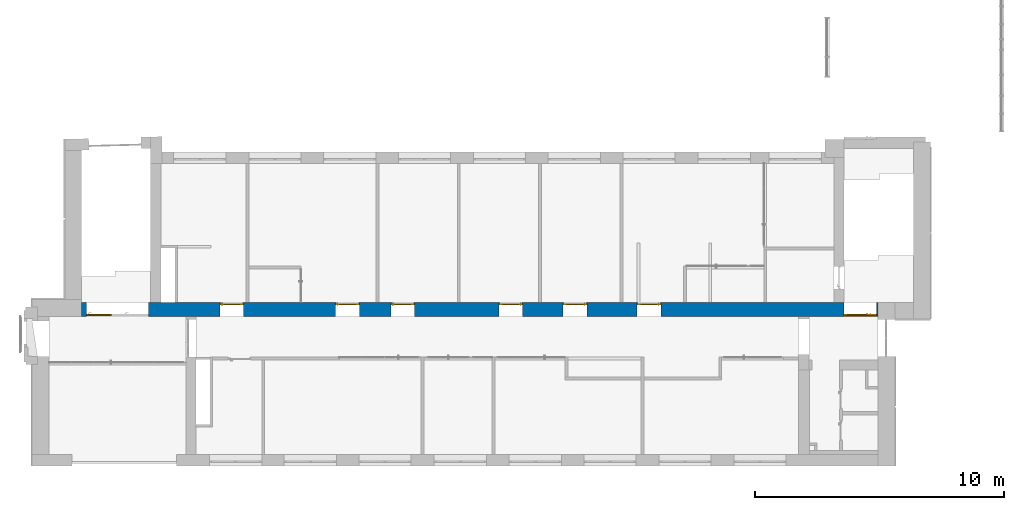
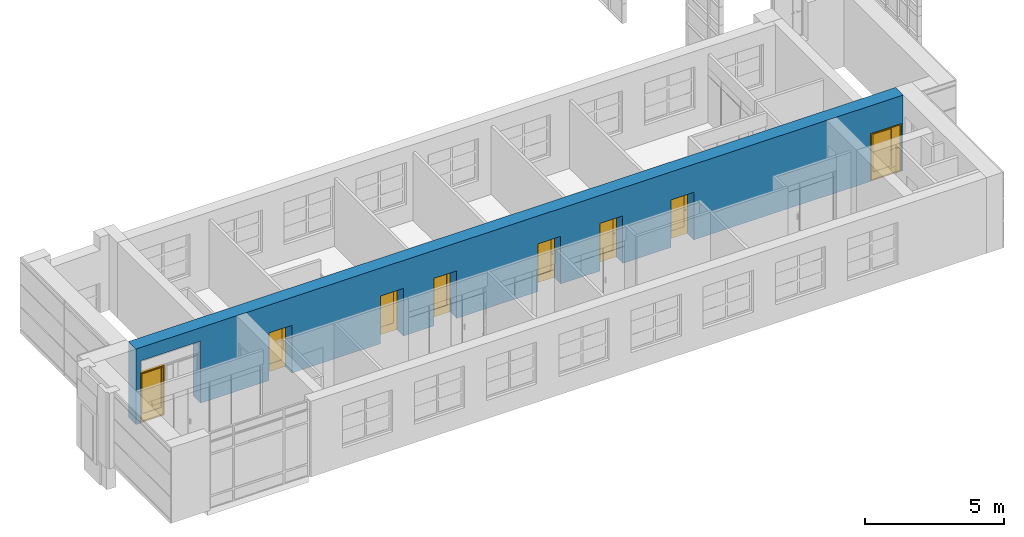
# One storey, part 56 of 73: 8 doors, 1 wall, 10 openings.
"""IFC2X3 building model written with IfcOpenShell, lengths in millimetres."""

from ifc_helpers import new_model, entity, si_unit, converted_unit, derived_unit, direction, frame, frame_2d, origin, place, context, subcontext, project, spatial, rectangle, extrude, faceted_brep, source, transform, mapped, material, material_list, layer, layer_set, layer_usage, type_object, type_shapes, element, fill, save


model = new_model("IFC2X3")

# Units and contexts
model_context = context("Model", 3, precision=0.01, world=origin(), true_north=direction((6.12303176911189e-17, 1.0)))
body_context = subcontext(model_context, "Body", "Model", "MODEL_VIEW")
ifc_project = project(units=[si_unit("LENGTHUNIT", "METRE", prefix="MILLI"), si_unit("AREAUNIT", "SQUARE_METRE"), si_unit("VOLUMEUNIT", "CUBIC_METRE"), converted_unit("PLANEANGLEUNIT", "DEGREE", entity("IfcRatioMeasure", 0.0174532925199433), si_unit("PLANEANGLEUNIT", "RADIAN"), dimensions=[0, 0, 0, 0, 0, 0, 0]), si_unit("MASSUNIT", "GRAM", prefix="KILO"), derived_unit("MASSDENSITYUNIT", [(si_unit("MASSUNIT", "GRAM", prefix="KILO"), 1), (si_unit("LENGTHUNIT", "METRE"), -3)]), si_unit("TIMEUNIT", "SECOND"), si_unit("FREQUENCYUNIT", "HERTZ"), si_unit("THERMODYNAMICTEMPERATUREUNIT", "DEGREE_CELSIUS"), derived_unit("THERMALTRANSMITTANCEUNIT", [(si_unit("MASSUNIT", "GRAM", prefix="KILO"), 1), (si_unit("THERMODYNAMICTEMPERATUREUNIT", "KELVIN"), -1), (si_unit("TIMEUNIT", "SECOND"), -3)]), derived_unit("VOLUMETRICFLOWRATEUNIT", [(si_unit("LENGTHUNIT", "METRE"), 3), (si_unit("TIMEUNIT", "SECOND"), -1)]), si_unit("ELECTRICCURRENTUNIT", "AMPERE"), si_unit("ELECTRICVOLTAGEUNIT", "VOLT"), si_unit("POWERUNIT", "WATT"), si_unit("FORCEUNIT", "NEWTON", prefix="KILO"), si_unit("ILLUMINANCEUNIT", "LUX"), si_unit("LUMINOUSFLUXUNIT", "LUMEN"), si_unit("LUMINOUSINTENSITYUNIT", "CANDELA"), derived_unit("USERDEFINED", [(si_unit("MASSUNIT", "GRAM", prefix="KILO"), -1), (si_unit("LENGTHUNIT", "METRE"), -2), (si_unit("TIMEUNIT", "SECOND"), 3), (si_unit("LUMINOUSFLUXUNIT", "LUMEN"), 1)]), derived_unit("LINEARVELOCITYUNIT", [(si_unit("LENGTHUNIT", "METRE"), 1), (si_unit("TIMEUNIT", "SECOND"), -1)]), si_unit("PRESSUREUNIT", "PASCAL"), derived_unit("USERDEFINED", [(si_unit("LENGTHUNIT", "METRE"), -2), (si_unit("MASSUNIT", "GRAM", prefix="KILO"), 1), (si_unit("TIMEUNIT", "SECOND"), -2)])], contexts=[model_context])

# Site, building, storey
site_placement = place(None, frame((-151.875543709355, 2715.0, 0.0)))
site = spatial("IfcSite", under=ifc_project, at=site_placement, Name="Surface", CompositionType="ELEMENT")
building_placement = place(site_placement, origin())
building = spatial("IfcBuilding", under=site, at=building_placement, CompositionType="ELEMENT")
storey_placement = place(building_placement, frame((0.0, 0.0, 6730.43000000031)))
storey = spatial("IfcBuildingStorey", under=building, at=storey_placement, Name="3 korrus", CompositionType="ELEMENT", Elevation=6730.43000000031)

# Wall, openings, doors
ifc_material_1 = material(Name="__Kips GN13_tava")
ifc_layer_1 = layer(ifc_material_1, 20.0)
ifc_material_2 = material(Name="Masonry - Brick")
ifc_layer_2 = layer(ifc_material_2, 510.0)
ifc_layer_3 = layer(ifc_material_1, 20.0)
ifc_layer_set = layer_set([ifc_layer_1, ifc_layer_2, ifc_layer_3], Name="Basic Wall:SS-1")
ifc_layer_usage = layer_usage(ifc_layer_set, "AXIS2", "POSITIVE", -275.0)
wall_type = type_object("IfcWallType", Name="Basic Wall:SS-1", PredefinedType="STANDARD", material=ifc_layer_set)
wall_placement = place(storey_placement, frame((1770.0, 6285.0, 0.00203353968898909)))
wall = element("IfcWallStandardCase", 1, at=wall_placement, inside=storey, type_object=wall_type, material=ifc_layer_usage, Name="SEIN - 002", ObjectType="Basic Wall:SS-1", context=body_context, shape_type="SweptSolid", body=[
    extrude(rectangle(XDim=31971.6162682, YDim=550.000000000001, at=frame_2d((15985.8081341, 0.0), x_axis=(-1.0, 0.0))), origin(), (0.0, 0.0, 1.0), 3329.56796646),
])
opening_1_placement = place(wall_placement, frame((30601.61626818, -275.0, 0.0)))
opening_1 = element("IfcOpeningElement", 2, at=opening_1_placement, cuts=wall, Name="Kahepoolsed:SU-11:1", ObjectType="Opening", context=body_context, shape_type="SweptSolid", body=[
    extrude(rectangle(XDim=2099.99999999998, YDim=1300.0, at=frame_2d((1049.99999999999, 650.0), x_axis=(1.0, 0.0))), frame((0.0, 0.0, 0.0), z_axis=(0.0, 1.0, 0.0), x_axis=(0.0, 0.0, 1.0)), (0.0, 0.0, 1.0), 550.0),
])
opening_2_placement = place(wall_placement, frame((17700.2662258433, 275.0, -0.00203353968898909)))
opening_2 = element("IfcOpeningElement", 3, at=opening_2_placement, cuts=wall, Name="Ühepoolsed:SU-03.:1", ObjectType="Opening", context=body_context, shape_type="SweptSolid", body=[
    extrude(rectangle(XDim=2099.99999999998, YDim=950.0, at=frame_2d((1049.99999999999, 475.0), x_axis=(1.0, 0.0))), frame((0.0, 0.0, 0.0), z_axis=(0.0, -1.0, 0.0), x_axis=(0.0, 0.0, 1.0)), (0.0, 0.0, 1.0), 550.0),
])
opening_3_placement = place(wall_placement, frame((13361.3323530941, 275.0, -0.00203353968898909)))
opening_3 = element("IfcOpeningElement", 4, at=opening_3_placement, cuts=wall, Name="Ühepoolsed:SU-03:1", ObjectType="Opening", context=body_context, shape_type="SweptSolid", body=[
    extrude(rectangle(XDim=2099.99999999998, YDim=949.999999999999, at=frame_2d((1049.99999999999, 475.000000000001), x_axis=(1.0, 0.0))), frame((0.0, 0.0, 0.0), z_axis=(0.0, -1.0, 0.0), x_axis=(0.0, 0.0, 1.0)), (0.0, 0.0, 1.0), 550.0),
])
opening_4_placement = place(wall_placement, frame((6492.84934805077, 275.0, -0.00203353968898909)))
opening_4 = element("IfcOpeningElement", 5, at=opening_4_placement, cuts=wall, Name="Ühepoolsed:SU-03:1", ObjectType="Opening", context=body_context, shape_type="SweptSolid", body=[
    extrude(rectangle(XDim=2099.99999999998, YDim=950.0, at=frame_2d((1049.99999999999, 475.0), x_axis=(1.0, 0.0))), frame((0.0, 0.0, 0.0), z_axis=(0.0, -1.0, 0.0), x_axis=(0.0, 0.0, 1.0)), (0.0, 0.0, 1.0), 550.0),
])
opening_5_placement = place(wall_placement, frame((20281.37701032, 275.0, -0.00203353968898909)))
opening_5 = element("IfcOpeningElement", 6, at=opening_5_placement, cuts=wall, Name="Ühepoolsed:SU-03.:1", ObjectType="Opening", context=body_context, shape_type="SweptSolid", body=[
    extrude(rectangle(XDim=2099.99999999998, YDim=950.0, at=frame_2d((1049.99999999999, 475.0), x_axis=(1.0, 0.0))), frame((0.0, 0.0, 0.0), z_axis=(0.0, -1.0, 0.0), x_axis=(0.0, 0.0, 1.0)), (0.0, 0.0, 1.0), 550.0),
])
opening_6_placement = place(wall_placement, frame((23246.99163952, 275.0, -0.00203353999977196)))
opening_6 = element("IfcOpeningElement", 7, at=opening_6_placement, cuts=wall, Name="Ühepoolsed:SU-03.:1", ObjectType="Opening", context=body_context, shape_type="SweptSolid", body=[
    extrude(rectangle(XDim=2099.99999999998, YDim=950.0, at=frame_2d((1049.99999999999, 475.0), x_axis=(1.0, 0.0))), frame((0.0, 0.0, 0.0), z_axis=(0.0, -1.0, 0.0), x_axis=(0.0, 0.0, 1.0)), (0.0, 0.0, 1.0), 550.0),
])
opening_7_placement = place(wall_placement, frame((11142.81982462, 275.0, -0.00203353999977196)))
opening_7 = element("IfcOpeningElement", 8, at=opening_7_placement, cuts=wall, Name="Ühepoolsed:SU-03:1", ObjectType="Opening", context=body_context, shape_type="SweptSolid", body=[
    extrude(rectangle(XDim=2099.99999999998, YDim=949.999999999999, at=frame_2d((1049.99999999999, 475.000000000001), x_axis=(1.0, 0.0))), frame((0.0, 0.0, 0.0), z_axis=(0.0, -1.0, 0.0), x_axis=(0.0, 0.0, 1.0)), (0.0, 0.0, 1.0), 550.0),
])
opening_8_placement = place(wall_placement, frame((188.767567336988, -275.0, 2199.99796645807)))
element("IfcOpeningElement", 9, at=opening_8_placement, cuts=wall, Name="Ühepoolsed:SU17_ülemine:1", ObjectType="Opening", context=body_context, shape_type="SweptSolid", body=[
    extrude(rectangle(XDim=539.999999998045, YDim=2500.0, at=frame_2d((269.999999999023, 1250.0), x_axis=(1.0, 0.0))), frame((0.0, 0.0, 0.0), z_axis=(0.0, 1.0, 0.0), x_axis=(0.0, 0.0, 1.0)), (0.0, 0.0, 1.0), 550.0),
])
opening_9_placement = place(wall_placement, frame((1188.76756733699, -275.0, -0.00203353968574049)))
element("IfcOpeningElement", 10, at=opening_9_placement, cuts=wall, Name="Kahepoolsed:SU-17:1", ObjectType="Opening", context=body_context, shape_type="SweptSolid", body=[
    extrude(rectangle(XDim=2199.99999999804, YDim=1500.0, at=frame_2d((1099.99999999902, 750.0), x_axis=(1.0, 0.0))), frame((0.0, 0.0, 0.0), z_axis=(0.0, 1.0, 0.0), x_axis=(0.0, 0.0, 1.0)), (0.0, 0.0, 1.0), 550.0),
])
opening_10_placement = place(wall_placement, frame((188.767567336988, -275.0, -0.00203353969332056)))
opening_10 = element("IfcOpeningElement", 11, at=opening_10_placement, cuts=wall, Name="Aken ukse kohal:SU-1500_aken:1", ObjectType="Opening", context=body_context, shape_type="SweptSolid", body=[
    extrude(rectangle(XDim=2199.99999999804, YDim=1000.0, at=frame_2d((1099.99999999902, 500.0), x_axis=(1.0, 0.0))), frame((0.0, 0.0, 0.0), z_axis=(0.0, 1.0, 0.0), x_axis=(0.0, 0.0, 1.0)), (0.0, 0.0, 1.0), 550.0),
])
ifc_material_3 = material(Name="_Alumiiniumprofiil - must")
ifc_material_4 = material(Name="__Uks_hele tamm")
ifc_material_5 = material(Name="EP Tavallinen lasi")
ifc_material_list_1 = material_list([ifc_material_3, ifc_material_4, ifc_material_5])
ifc_material_list_2 = material_list([ifc_material_3, ifc_material_4, ifc_material_5])
door_style_1 = type_object("IfcDoorStyle", Name="SU-11", ConstructionType="NOTDEFINED", OperationType="FOLDING_TO_RIGHT", ParameterTakesPrecedence=False, Sizeable=False, material=ifc_material_list_2)
shared_shape_1 = source(origin(), body_context, "Body", "Brep", [
    faceted_brep([(912.5, 0.0, 1100.0), (817.5, 0.0, 1100.0), (817.5, -5.0, 1100.0), (937.5, -5.0, 1100.0), (937.5, 38.0, 1100.0), (912.5, 38.0, 1100.0), (912.5, 0.0, 1075.0), (912.5, 38.0, 1075.0), (937.5, 38.0, 1075.0), (937.5, -5.0, 1075.0), (817.5, -5.0, 1075.0), (817.5, 0.0, 1075.0)], [[[0, 1, 2, 3, 4, 5]], [[6, 7, 8, 9, 10, 11]], [[5, 7, 6, 0]], [[4, 8, 7, 5]], [[3, 9, 8, 4]], [[2, 10, 9, 3]], [[1, 11, 10, 2]], [[0, 6, 11, 1]]]),
    faceted_brep([(900.0, 38.0, 1125.0), (950.0, 38.0, 1125.0), (950.0, 40.0, 1125.0), (900.0, 40.0, 1125.0), (900.0, 38.0, 1005.0), (900.0, 40.0, 1005.0), (950.0, 40.0, 1005.0), (950.0, 38.0, 1005.0)], [[[0, 1, 2, 3]], [[4, 5, 6, 7]], [[3, 5, 4, 0]], [[2, 6, 5, 3]], [[1, 7, 6, 2]], [[0, 4, 7, 1]]]),
    faceted_brep([(912.499999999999, 130.0, 1100.0), (912.499999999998, 92.0, 1100.0), (937.499999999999, 92.0, 1100.0), (937.499999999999, 135.0, 1100.0), (817.499999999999, 135.0, 1100.0), (817.499999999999, 130.0, 1100.0), (912.499999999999, 130.0, 1075.0), (817.499999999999, 130.0, 1075.0), (817.499999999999, 135.0, 1075.0), (937.499999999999, 135.0, 1075.0), (937.499999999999, 92.0, 1075.0), (912.499999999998, 92.0, 1075.0)], [[[0, 1, 2, 3, 4, 5]], [[6, 7, 8, 9, 10, 11]], [[1, 0, 6, 11]], [[2, 1, 11, 10]], [[3, 2, 10, 9]], [[4, 3, 9, 8]], [[5, 4, 8, 7]], [[0, 5, 7, 6]]]),
    faceted_brep([(900.0, 92.0, 1125.0), (900.0, 90.0, 1125.0), (950.0, 90.0, 1125.0), (950.0, 92.0, 1125.0), (900.0, 92.0, 1005.0), (950.0, 92.0, 1005.0), (950.0, 90.0, 1005.0), (900.0, 90.0, 1005.0)], [[[0, 1, 2, 3]], [[4, 5, 6, 7]], [[1, 0, 4, 7]], [[2, 1, 7, 6]], [[3, 2, 6, 5]], [[0, 3, 5, 4]]]),
    faceted_brep([(1087.5, 0.0, 1100.0), (1087.5, 38.0, 1100.0), (1062.5, 38.0, 1100.0), (1062.5, -5.0, 1100.0), (1182.5, -5.0, 1100.0), (1182.5, 0.0, 1100.0), (1087.5, 0.0, 1075.0), (1182.5, 0.0, 1075.0), (1182.5, -5.0, 1075.0), (1062.5, -5.0, 1075.0), (1062.5, 38.0, 1075.0), (1087.5, 38.0, 1075.0)], [[[0, 1, 2, 3, 4, 5]], [[6, 7, 8, 9, 10, 11]], [[1, 0, 6, 11]], [[2, 1, 11, 10]], [[3, 2, 10, 9]], [[4, 3, 9, 8]], [[5, 4, 8, 7]], [[0, 5, 7, 6]]]),
    faceted_brep([(1100.0, 38.0, 1125.0), (1100.0, 40.0, 1125.0), (1050.0, 40.0, 1125.0), (1050.0, 38.0, 1125.0), (1100.0, 38.0, 1005.0), (1050.0, 38.0, 1005.0), (1050.0, 40.0, 1005.0), (1100.0, 40.0, 1005.0)], [[[0, 1, 2, 3]], [[4, 5, 6, 7]], [[1, 0, 4, 7]], [[2, 1, 7, 6]], [[3, 2, 6, 5]], [[0, 3, 5, 4]]]),
    faceted_brep([(1087.5, 130.0, 1100.0), (1182.5, 130.0, 1100.0), (1182.5, 135.0, 1100.0), (1062.5, 135.0, 1100.0), (1062.5, 92.0, 1100.0), (1087.5, 92.0, 1100.0), (1087.5, 130.0, 1075.0), (1087.5, 92.0, 1075.0), (1062.5, 92.0, 1075.0), (1062.5, 135.0, 1075.0), (1182.5, 135.0, 1075.0), (1182.5, 130.0, 1075.0)], [[[0, 1, 2, 3, 4, 5]], [[6, 7, 8, 9, 10, 11]], [[5, 7, 6, 0]], [[4, 8, 7, 5]], [[3, 9, 8, 4]], [[2, 10, 9, 3]], [[1, 11, 10, 2]], [[0, 6, 11, 1]]]),
    faceted_brep([(1100.0, 92.0, 1125.0), (1050.0, 92.0, 1125.0), (1050.0, 90.0, 1125.0), (1100.0, 90.0, 1125.0), (1100.0, 92.0, 1005.0), (1100.0, 90.0, 1005.0), (1050.0, 90.0, 1005.0), (1050.0, 92.0, 1005.0)], [[[0, 1, 2, 3]], [[4, 5, 6, 7]], [[3, 5, 4, 0]], [[2, 6, 5, 3]], [[1, 7, 6, 2]], [[0, 4, 7, 1]]]),
    faceted_brep([(1260.0, 0.0, 30.0), (1260.0, 0.0, 0.0), (1260.0, 40.0, 0.0), (1260.0, 40.0, 20.0), (1260.0, 40.0, 30.0), (40.0, 0.0, 30.0), (40.0, 40.0, 30.0), (40.0, 40.0, 20.0), (40.0, 40.0, 0.0), (40.0, 0.0, 0.0), (25.0, 40.0, 0.0), (25.0, 90.0, 0.0), (1275.0, 90.0, 0.0), (1275.0, 40.0, 0.0), (1275.0, 90.0, 20.0), (1275.0, 40.0, 20.0), (25.0, 90.0, 20.0), (25.0, 40.0, 20.0)], [[[0, 1, 2, 3, 4]], [[5, 6, 7, 8, 9]], [[1, 0, 5, 9]], [[2, 1, 9, 8, 10, 11, 12, 13]], [[6, 4, 3, 7]], [[0, 4, 6, 5]], [[14, 15, 13, 12]], [[16, 11, 10, 17]], [[15, 14, 16, 17, 7, 3]], [[13, 15, 3, 2]], [[14, 12, 11, 16]], [[17, 10, 8, 7]]]),
    faceted_brep([(1300.0, 0.0, 0.0), (1260.0, 0.0, 0.0), (1260.0, 40.0, 0.0), (1275.0, 40.0, 0.0), (1275.0, 90.0, 0.0), (1300.0, 90.0, 0.0), (1300.0, 0.0, 2100.0), (0.0, 0.0, 2100.0), (0.0, 0.0, 0.0), (40.0, 0.0, 0.0), (40.0, 0.0, 2060.0), (1260.0, 0.0, 2060.0), (1260.0, 40.0, 2060.0), (40.0, 40.0, 2060.0), (40.0, 40.0, 0.0), (25.0, 40.0, 0.0), (25.0, 40.0, 2075.0), (1275.0, 40.0, 2075.0), (1275.0, 90.0, 2075.0), (25.0, 90.0, 2075.0), (25.0, 90.0, 0.0), (0.0, 90.0, 0.0), (0.0, 90.0, 2100.0), (1300.0, 90.0, 2100.0)], [[[0, 1, 2, 3, 4, 5]], [[1, 0, 6, 7, 8, 9, 10, 11]], [[2, 1, 11, 12]], [[3, 2, 12, 13, 14, 15, 16, 17]], [[4, 3, 17, 18]], [[5, 4, 18, 19, 20, 21, 22, 23]], [[0, 5, 23, 6]], [[8, 7, 22, 21]], [[9, 8, 21, 20, 15, 14]], [[10, 9, 14, 13]], [[16, 15, 20, 19]], [[11, 10, 13, 12]], [[17, 16, 19, 18]], [[7, 6, 23, 22]]]),
    faceted_brep([(1149.0, 90.0, 2000.0), (1149.0, 40.0, 2000.0), (1149.0, 40.0, 1990.0), (1149.0, 90.0, 1990.0), (1150.0, 40.0, 1990.0), (1150.0, 90.0, 1990.0), (1150.0, 40.0, 2000.0), (1150.0, 90.0, 2000.0), (1275.0, 40.0, 2075.0), (1000.0, 40.0, 2075.0), (1000.0, 40.0, 20.0), (1275.0, 40.0, 20.0), (1275.0, 90.0, 2075.0), (1275.0, 90.0, 20.0), (1000.0, 90.0, 20.0), (1000.0, 90.0, 2075.0)], [[[0, 1, 2, 3]], [[3, 2, 4, 5]], [[5, 4, 6, 7]], [[1, 0, 7, 6]], [[2, 1, 6, 4], [8, 9, 10, 11]], [[0, 3, 5, 7], [12, 13, 14, 15]], [[9, 8, 12, 15]], [[10, 9, 15, 14]], [[11, 10, 14, 13]], [[8, 11, 13, 12]]], outer=[[True], [True], [True], [True], [False, True], [False, True], [True], [True], [True], [True]]),
    faceted_brep([(125.0, 55.0, 350.0), (900.0, 55.0, 350.0), (900.0, 55.0, 2000.0), (125.0, 55.0, 2000.0), (125.0, 75.0, 350.0), (125.0, 75.0, 2000.0), (900.0, 75.0, 2000.0), (900.0, 75.0, 350.0)], [[[0, 1, 2, 3]], [[4, 5, 6, 7]], [[1, 0, 4, 7]], [[2, 1, 7, 6]], [[3, 2, 6, 5]], [[0, 3, 5, 4]]]),
    faceted_brep([(1000.0, 40.0, 2075.0), (25.0, 40.0, 2075.0), (25.0, 40.0, 20.0), (1000.0, 40.0, 20.0), (125.0, 40.0, 350.0), (125.0, 40.0, 2000.0), (900.0, 40.0, 2000.0), (900.0, 40.0, 350.0), (1000.0, 90.0, 2075.0), (1000.0, 90.0, 20.0), (25.0, 90.0, 20.0), (25.0, 90.0, 2075.0), (125.0, 90.0, 2000.0), (125.0, 90.0, 350.0), (900.0, 90.0, 350.0), (900.0, 90.0, 2000.0)], [[[0, 1, 2, 3], [4, 5, 6, 7]], [[8, 9, 10, 11], [12, 13, 14, 15]], [[1, 0, 8, 11]], [[2, 1, 11, 10]], [[3, 2, 10, 9]], [[0, 3, 9, 8]], [[12, 5, 4, 13]], [[13, 4, 7, 14]], [[14, 7, 6, 15]], [[5, 12, 15, 6]]]),
])
type_shapes(door_style_1, [shared_shape_1])
door_1_placement = place(opening_1_placement, origin())
door_1 = element("IfcDoor", 12, at=door_1_placement, inside=storey, type_object=door_style_1, material=ifc_material_list_1, Name="Kahepoolsed:SU-11", ObjectType="SU-11", OverallHeight=2099.99999999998, OverallWidth=1300.0, context=body_context, shape_type="MappedRepresentation", body=[
    mapped(shared_shape_1, transform((0.0, 0.0, 0.0), scale=1.0)),
])
fill(opening_1, door_1)
ifc_material_6 = material(Name="Glass")
ifc_material_list_3 = material_list([ifc_material_3, ifc_material_4, ifc_material_6])
ifc_material_list_4 = material_list([ifc_material_3, ifc_material_4, ifc_material_6])
door_style_2 = type_object("IfcDoorStyle", Name="SU-03.", ConstructionType="NOTDEFINED", OperationType="FOLDING_TO_LEFT", ParameterTakesPrecedence=False, Sizeable=False, material=ifc_material_list_4)
shared_shape_2 = source(origin(), body_context, "Body", "Brep", [
    faceted_brep([(100.0, 0.0, 1112.5), (100.0, 38.0, 1112.5), (75.0, 38.0, 1112.5), (75.0, -5.0, 1112.5), (195.0, -5.0, 1112.5), (195.0, 0.0, 1112.5), (100.0, 0.0, 1087.5), (195.0, 0.0, 1087.5), (195.0, -5.0, 1087.5), (75.0, -5.0, 1087.5), (75.0, 38.0, 1087.5), (100.0, 38.0, 1087.5)], [[[0, 1, 2, 3, 4, 5]], [[6, 7, 8, 9, 10, 11]], [[1, 0, 6, 11]], [[2, 1, 11, 10]], [[3, 2, 10, 9]], [[4, 3, 9, 8]], [[5, 4, 8, 7]], [[0, 5, 7, 6]]]),
    faceted_brep([(112.500000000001, 38.0, 1137.5), (112.500000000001, 40.0, 1137.5), (62.5000000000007, 40.0, 1137.5), (62.5000000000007, 38.0, 1137.5), (112.500000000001, 38.0, 1017.5), (62.5000000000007, 38.0, 1017.5), (62.5000000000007, 40.0, 1017.5), (112.500000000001, 40.0, 1017.5)], [[[0, 1, 2, 3]], [[4, 5, 6, 7]], [[1, 0, 4, 7]], [[2, 1, 7, 6]], [[3, 2, 6, 5]], [[0, 3, 5, 4]]]),
    faceted_brep([(100.0, 130.0, 1112.5), (195.0, 130.0, 1112.5), (195.0, 135.0, 1112.5), (75.0, 135.0, 1112.5), (75.0, 92.0, 1112.5), (100.0, 92.0, 1112.5), (100.0, 130.0, 1087.5), (100.0, 92.0, 1087.5), (75.0, 92.0, 1087.5), (75.0, 135.0, 1087.5), (195.0, 135.0, 1087.5), (195.0, 130.0, 1087.5)], [[[0, 1, 2, 3, 4, 5]], [[6, 7, 8, 9, 10, 11]], [[5, 7, 6, 0]], [[4, 8, 7, 5]], [[3, 9, 8, 4]], [[2, 10, 9, 3]], [[1, 11, 10, 2]], [[0, 6, 11, 1]]]),
    faceted_brep([(112.500000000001, 92.0, 1137.5), (62.5000000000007, 92.0, 1137.5), (62.5000000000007, 90.0, 1137.5), (112.500000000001, 90.0, 1137.5), (112.500000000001, 92.0, 1017.5), (112.500000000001, 90.0, 1017.5), (62.5000000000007, 90.0, 1017.5), (62.5000000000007, 92.0, 1017.5)], [[[0, 1, 2, 3]], [[4, 5, 6, 7]], [[3, 5, 4, 0]], [[2, 6, 5, 3]], [[1, 7, 6, 2]], [[0, 4, 7, 1]]]),
    faceted_brep([(950.0, 0.0, 0.0), (910.0, 0.0, 0.0), (910.0, 40.0, 0.0), (925.0, 40.0, 0.0), (925.0, 90.0, 0.0), (950.0, 90.0, 0.0), (950.0, 0.0, 2100.0), (0.0, 0.0, 2100.0), (0.0, 0.0, 0.0), (40.0, 0.0, 0.0), (40.0, 0.0, 2060.0), (910.0, 0.0, 2060.0), (910.0, 40.0, 2060.0), (40.0, 40.0, 2060.0), (40.0, 40.0, 0.0), (25.0, 40.0, 0.0), (25.0, 40.0, 2075.0), (925.0, 40.0, 2075.0), (925.0, 90.0, 2075.0), (25.0, 90.0, 2075.0), (25.0, 90.0, 0.0), (0.0, 90.0, 0.0), (0.0, 90.0, 2100.0), (950.0, 90.0, 2100.0)], [[[0, 1, 2, 3, 4, 5]], [[1, 0, 6, 7, 8, 9, 10, 11]], [[2, 1, 11, 12]], [[3, 2, 12, 13, 14, 15, 16, 17]], [[4, 3, 17, 18]], [[5, 4, 18, 19, 20, 21, 22, 23]], [[0, 5, 23, 6]], [[8, 7, 22, 21]], [[9, 8, 21, 20, 15, 14]], [[10, 9, 14, 13]], [[16, 15, 20, 19]], [[11, 10, 13, 12]], [[17, 16, 19, 18]], [[7, 6, 23, 22]]]),
    faceted_brep([(810.0, 55.0, 350.0), (810.0, 55.0, 1960.0), (140.0, 55.0, 1960.0), (140.0, 55.0, 350.0), (810.0, 75.0, 350.0), (140.0, 75.0, 350.0), (140.0, 75.0, 1960.0), (810.0, 75.0, 1960.0)], [[[0, 1, 2, 3]], [[4, 5, 6, 7]], [[1, 0, 4, 7]], [[2, 1, 7, 6]], [[3, 2, 6, 5]], [[0, 3, 5, 4]]]),
    faceted_brep([(925.0, 40.0, 20.0), (925.0, 40.0, 2075.0), (25.0, 40.0, 2075.0), (25.0, 40.0, 20.0), (140.0, 40.0, 350.0), (140.0, 40.0, 1960.0), (810.0, 40.0, 1960.0), (810.0, 40.0, 350.0), (925.0, 90.0, 20.0), (25.0, 90.0, 20.0), (25.0, 90.0, 2075.0), (925.0, 90.0, 2075.0), (140.0, 90.0, 1960.0), (140.0, 90.0, 350.0), (810.0, 90.0, 350.0), (810.0, 90.0, 1960.0)], [[[0, 1, 2, 3], [4, 5, 6, 7]], [[8, 9, 10, 11], [12, 13, 14, 15]], [[1, 0, 8, 11]], [[2, 1, 11, 10]], [[3, 2, 10, 9]], [[0, 3, 9, 8]], [[12, 5, 4, 13]], [[13, 4, 7, 14]], [[14, 7, 6, 15]], [[5, 12, 15, 6]]]),
])
type_shapes(door_style_2, [shared_shape_2])
door_2_placement = place(opening_2_placement, frame((0.0, 0.0, 0.0), z_axis=(0.0, 0.0, 1.0), x_axis=(-1.0, 0.0, 0.0)))
door_2 = element("IfcDoor", 13, at=door_2_placement, inside=storey, type_object=door_style_2, material=ifc_material_list_3, Name="Ühepoolsed:SU-03.", ObjectType="SU-03.", OverallHeight=2099.99999999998, OverallWidth=950.000000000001, context=body_context, shape_type="MappedRepresentation", body=[
    mapped(shared_shape_2, transform((0.0, 0.0, 0.0), scale=1.0)),
])
fill(opening_2, door_2)
ifc_material_list_5 = material_list([ifc_material_3, ifc_material_4, ifc_material_6])
door_3_placement = place(opening_5_placement, frame((0.0, 0.0, 0.0), z_axis=(0.0, 0.0, 1.0), x_axis=(-1.0, 0.0, 0.0)))
door_3 = element("IfcDoor", 14, at=door_3_placement, inside=storey, type_object=door_style_2, material=ifc_material_list_5, Name="Ühepoolsed:SU-03.", ObjectType="SU-03.", OverallHeight=2099.99999999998, OverallWidth=950.000000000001, context=body_context, shape_type="MappedRepresentation", body=[
    mapped(shared_shape_2, transform((0.0, 0.0, 0.0), scale=1.0)),
])
fill(opening_5, door_3)
ifc_material_list_6 = material_list([ifc_material_3, ifc_material_4, ifc_material_6])
door_4_placement = place(opening_6_placement, frame((0.0, 0.0, 0.0), z_axis=(0.0, 0.0, 1.0), x_axis=(-1.0, 0.0, 0.0)))
door_4 = element("IfcDoor", 15, at=door_4_placement, inside=storey, type_object=door_style_2, material=ifc_material_list_6, Name="Ühepoolsed:SU-03.", ObjectType="SU-03.", OverallHeight=2099.99999999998, OverallWidth=950.000000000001, context=body_context, shape_type="MappedRepresentation", body=[
    mapped(shared_shape_2, transform((0.0, 0.0, 0.0), scale=1.0)),
])
fill(opening_6, door_4)
ifc_material_list_7 = material_list([ifc_material_3, ifc_material_4, ifc_material_6])
ifc_material_list_8 = material_list([ifc_material_3, ifc_material_4, ifc_material_6])
door_style_3 = type_object("IfcDoorStyle", Name="SU-03", ConstructionType="NOTDEFINED", OperationType="FOLDING_TO_LEFT", ParameterTakesPrecedence=False, Sizeable=False, material=ifc_material_list_8)
shared_shape_3 = source(origin(), body_context, "Body", "Brep", [
    faceted_brep([(850.0, 0.0, 1112.5), (755.0, 0.0, 1112.5), (755.0, -5.0, 1112.5), (875.0, -5.0, 1112.5), (875.0, 38.0, 1112.5), (850.0, 38.0, 1112.5), (850.0, 0.0, 1087.5), (850.0, 38.0, 1087.5), (875.0, 38.0, 1087.5), (875.0, -5.0, 1087.5), (755.0, -5.0, 1087.5), (755.0, 0.0, 1087.5)], [[[0, 1, 2, 3, 4, 5]], [[6, 7, 8, 9, 10, 11]], [[5, 7, 6, 0]], [[4, 8, 7, 5]], [[3, 9, 8, 4]], [[2, 10, 9, 3]], [[1, 11, 10, 2]], [[0, 6, 11, 1]]]),
    faceted_brep([(837.500000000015, 38.0, 1137.5), (887.500000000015, 38.0, 1137.5), (887.500000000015, 40.0, 1137.5), (837.500000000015, 40.0, 1137.5), (837.500000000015, 38.0, 1017.5), (837.500000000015, 40.0, 1017.5), (887.500000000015, 40.0, 1017.5), (887.500000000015, 38.0, 1017.5)], [[[0, 1, 2, 3]], [[4, 5, 6, 7]], [[3, 5, 4, 0]], [[2, 6, 5, 3]], [[1, 7, 6, 2]], [[0, 4, 7, 1]]]),
    faceted_brep([(850.0, 130.0, 1112.5), (850.0, 92.0, 1112.5), (875.0, 92.0, 1112.5), (875.0, 135.0, 1112.5), (755.0, 135.0, 1112.5), (755.0, 130.0, 1112.5), (850.0, 130.0, 1087.5), (755.0, 130.0, 1087.5), (755.0, 135.0, 1087.5), (875.0, 135.0, 1087.5), (875.0, 92.0, 1087.5), (850.0, 92.0, 1087.5)], [[[0, 1, 2, 3, 4, 5]], [[6, 7, 8, 9, 10, 11]], [[1, 0, 6, 11]], [[2, 1, 11, 10]], [[3, 2, 10, 9]], [[4, 3, 9, 8]], [[5, 4, 8, 7]], [[0, 5, 7, 6]]]),
    faceted_brep([(837.500000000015, 92.0, 1137.5), (837.500000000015, 90.0, 1137.5), (887.500000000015, 90.0, 1137.5), (887.500000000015, 92.0, 1137.5), (837.500000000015, 92.0, 1017.5), (887.500000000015, 92.0, 1017.5), (887.500000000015, 90.0, 1017.5), (837.500000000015, 90.0, 1017.5)], [[[0, 1, 2, 3]], [[4, 5, 6, 7]], [[1, 0, 4, 7]], [[2, 1, 7, 6]], [[3, 2, 6, 5]], [[0, 3, 5, 4]]]),
    faceted_brep([(0.0, 0.0, 0.0), (0.0, 90.0, 0.0), (25.0, 90.0, 0.0), (25.0, 40.0, 0.0), (40.0, 40.0, 0.0), (40.0, 0.0, 0.0), (40.0, 0.0, 2060.0), (910.0, 0.0, 2060.0), (910.0, 0.0, 0.0), (950.0, 0.0, 0.0), (950.0, 0.0, 2100.0), (0.0, 0.0, 2100.0), (40.0, 40.0, 2060.0), (25.0, 40.0, 2075.0), (925.0, 40.0, 2075.0), (925.0, 40.0, 0.0), (910.0, 40.0, 0.0), (910.0, 40.0, 2060.0), (25.0, 90.0, 2075.0), (0.0, 90.0, 2100.0), (950.0, 90.0, 2100.0), (950.0, 90.0, 0.0), (925.0, 90.0, 0.0), (925.0, 90.0, 2075.0)], [[[0, 1, 2, 3, 4, 5]], [[5, 6, 7, 8, 9, 10, 11, 0]], [[4, 12, 6, 5]], [[3, 13, 14, 15, 16, 17, 12, 4]], [[2, 18, 13, 3]], [[1, 19, 20, 21, 22, 23, 18, 2]], [[0, 11, 19, 1]], [[9, 21, 20, 10]], [[8, 16, 15, 22, 21, 9]], [[7, 17, 16, 8]], [[14, 23, 22, 15]], [[6, 12, 17, 7]], [[13, 18, 23, 14]], [[10, 20, 19, 11]]]),
    faceted_brep([(140.0, 55.0, 350.0), (810.0, 55.0, 350.0), (810.0, 55.0, 1960.0), (140.0, 55.0, 1960.0), (140.0, 75.0, 350.0), (140.0, 75.0, 1960.0), (810.0, 75.0, 1960.0), (810.0, 75.0, 350.0)], [[[0, 1, 2, 3]], [[4, 5, 6, 7]], [[3, 5, 4, 0]], [[2, 6, 5, 3]], [[1, 7, 6, 2]], [[0, 4, 7, 1]]]),
    faceted_brep([(25.0, 40.0, 20.0), (925.0, 40.0, 20.0), (925.0, 40.0, 2075.0), (25.0, 40.0, 2075.0), (810.0, 40.0, 350.0), (140.0, 40.0, 350.0), (140.0, 40.0, 1960.0), (810.0, 40.0, 1960.0), (25.0, 90.0, 20.0), (25.0, 90.0, 2075.0), (925.0, 90.0, 2075.0), (925.0, 90.0, 20.0), (810.0, 90.0, 1960.0), (140.0, 90.0, 1960.0), (140.0, 90.0, 350.0), (810.0, 90.0, 350.0)], [[[0, 1, 2, 3], [4, 5, 6, 7]], [[8, 9, 10, 11], [12, 13, 14, 15]], [[3, 9, 8, 0]], [[2, 10, 9, 3]], [[1, 11, 10, 2]], [[0, 8, 11, 1]], [[12, 15, 4, 7]], [[15, 14, 5, 4]], [[14, 13, 6, 5]], [[7, 6, 13, 12]]]),
])
type_shapes(door_style_3, [shared_shape_3])
door_5_placement = place(opening_3_placement, frame((0.0, 0.0, 0.0), z_axis=(0.0, 0.0, 1.0), x_axis=(-1.0, 0.0, 0.0)))
door_5 = element("IfcDoor", 16, at=door_5_placement, inside=storey, type_object=door_style_3, material=ifc_material_list_7, Name="Ühepoolsed:SU-03", ObjectType="SU-03", OverallHeight=2099.99999999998, OverallWidth=950.000000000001, context=body_context, shape_type="MappedRepresentation", body=[
    mapped(shared_shape_3, transform((0.0, 0.0, 0.0), scale=1.0)),
])
fill(opening_3, door_5)
ifc_material_list_9 = material_list([ifc_material_3, ifc_material_4, ifc_material_6])
door_6_placement = place(opening_4_placement, frame((0.0, 0.0, 0.0), z_axis=(0.0, 0.0, 1.0), x_axis=(-1.0, 0.0, 0.0)))
door_6 = element("IfcDoor", 17, at=door_6_placement, inside=storey, type_object=door_style_3, material=ifc_material_list_9, Name="Ühepoolsed:SU-03", ObjectType="SU-03", OverallHeight=2099.99999999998, OverallWidth=950.0, context=body_context, shape_type="MappedRepresentation", body=[
    mapped(shared_shape_3, transform((0.0, 0.0, 0.0), scale=1.0)),
])
fill(opening_4, door_6)
ifc_material_list_10 = material_list([ifc_material_3, ifc_material_4, ifc_material_6])
door_7_placement = place(opening_7_placement, frame((0.0, 0.0, 0.0), z_axis=(0.0, 0.0, 1.0), x_axis=(-1.0, 0.0, 0.0)))
door_7 = element("IfcDoor", 18, at=door_7_placement, inside=storey, type_object=door_style_3, material=ifc_material_list_10, Name="Ühepoolsed:SU-03", ObjectType="SU-03", OverallHeight=2099.99999999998, OverallWidth=950.000000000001, context=body_context, shape_type="MappedRepresentation", body=[
    mapped(shared_shape_3, transform((0.0, 0.0, 0.0), scale=1.0)),
])
fill(opening_7, door_7)
ifc_material_list_11 = material_list([ifc_material_4, ifc_material_5])
ifc_material_list_12 = material_list([ifc_material_4, ifc_material_5])
door_style_4 = type_object("IfcDoorStyle", Name="SU-1500_aken", ConstructionType="NOTDEFINED", OperationType="SINGLE_SWING_RIGHT", ParameterTakesPrecedence=False, Sizeable=False, material=ifc_material_list_12)
shared_shape_4 = source(origin(), body_context, "Body", "Brep", [
    faceted_brep([(960.0, 50.0, 40.0), (960.0, 10.0, 40.0), (960.0, 10.0, 2160.0), (960.0, 50.0, 2160.0), (975.0, 100.0, 25.0), (975.0, 50.0, 25.0), (975.0, 50.0, 2175.0), (975.0, 100.0, 2175.0), (1000.0, 10.0, 0.0), (1000.0, 100.0, 0.0), (1000.0, 100.0, 2200.0), (1000.0, 10.0, 2200.0), (40.0, 10.0, 2160.0), (40.0, 50.0, 2160.0), (25.0, 50.0, 2175.0), (25.0, 100.0, 2175.0), (0.0, 100.0, 2200.0), (0.0, 10.0, 2200.0), (40.0, 10.0, 40.0), (40.0, 50.0, 40.0), (25.0, 50.0, 25.0), (25.0, 100.0, 25.0), (0.0, 100.0, 0.0), (0.0, 10.0, 0.0)], [[[0, 1, 2, 3]], [[4, 5, 6, 7]], [[8, 9, 10, 11]], [[3, 2, 12, 13]], [[7, 6, 14, 15]], [[11, 10, 16, 17]], [[13, 12, 18, 19]], [[15, 14, 20, 21]], [[17, 16, 22, 23]], [[2, 1, 18, 12], [8, 11, 17, 23]], [[1, 0, 19, 18]], [[0, 3, 13, 19], [6, 5, 20, 14]], [[5, 4, 21, 20]], [[4, 7, 15, 21], [10, 9, 22, 16]], [[9, 8, 23, 22]]], outer=[[True], [True], [True], [True], [True], [True], [True], [True], [True], [False, True], [True], [False, True], [True], [False, True], [True]]),
    faceted_brep([(900.0, 65.0, 350.0), (900.0, 65.0, 2100.0), (100.0, 65.0, 2100.0), (100.0, 65.0, 350.0), (900.0, 85.0, 350.0), (100.0, 85.0, 350.0), (100.0, 85.0, 2100.0), (900.0, 85.0, 2100.0)], [[[0, 1, 2, 3]], [[4, 5, 6, 7]], [[1, 0, 4, 7]], [[2, 1, 7, 6]], [[3, 2, 6, 5]], [[0, 3, 5, 4]]]),
    faceted_brep([(975.0, 50.0, 20.0), (975.0, 50.0, 2175.0), (25.0, 50.0, 2175.0), (25.0, 50.0, 20.0), (100.0, 50.0, 350.0), (100.0, 50.0, 2100.0), (900.0, 50.0, 2100.0), (900.0, 50.0, 350.0), (975.0, 100.0, 20.0), (25.0, 100.0, 20.0), (25.0, 100.0, 2175.0), (975.0, 100.0, 2175.0), (100.0, 100.0, 2100.0), (100.0, 100.0, 350.0), (900.0, 100.0, 350.0), (900.0, 100.0, 2100.0)], [[[0, 1, 2, 3], [4, 5, 6, 7]], [[8, 9, 10, 11], [12, 13, 14, 15]], [[1, 0, 8, 11]], [[2, 1, 11, 10]], [[3, 2, 10, 9]], [[0, 3, 9, 8]], [[12, 5, 4, 13]], [[13, 4, 7, 14]], [[14, 7, 6, 15]], [[5, 12, 15, 6]]]),
])
type_shapes(door_style_4, [shared_shape_4])
door_8_placement = place(opening_10_placement, origin())
door_8 = element("IfcDoor", 19, at=door_8_placement, inside=storey, type_object=door_style_4, material=ifc_material_list_11, Name="Aken ukse kohal:SU-1500_aken", ObjectType="SU-1500_aken", OverallHeight=2199.99999999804, OverallWidth=1000.0, context=body_context, shape_type="MappedRepresentation", body=[
    mapped(shared_shape_4, transform((0.0, 0.0, 0.0), scale=1.0)),
])
fill(opening_10, door_8)

save(model, "model.ifc")
